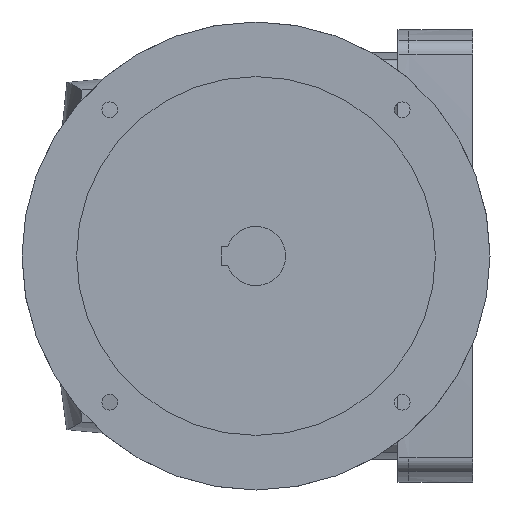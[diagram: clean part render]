
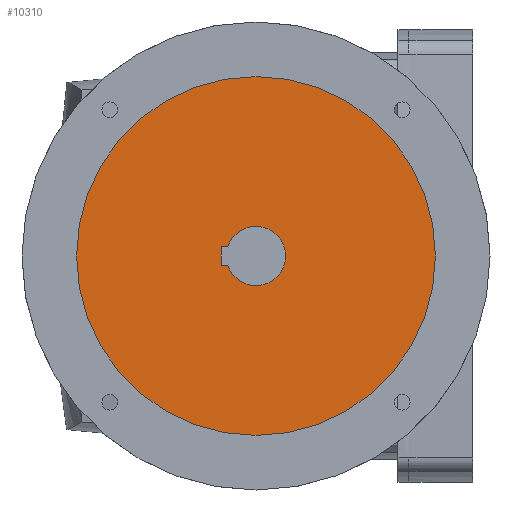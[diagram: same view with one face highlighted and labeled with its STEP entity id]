
A CAD part, left-side view. The second image highlights one B-rep face of the part: STEP entity #10310.
In plain terms, the highlighted planar face has unit normal (-1, 0, 0).
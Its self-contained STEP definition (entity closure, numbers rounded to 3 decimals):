
#267=CARTESIAN_POINT('',(-176.,124.,0.));
#268=DIRECTION('',(-1.,0.,0.));
#269=DIRECTION('',(0.,-1.,0.));
#270=AXIS2_PLACEMENT_3D('',#267,#268,#269);
#272=CARTESIAN_POINT('',(-176.,124.,0.));
#273=DIRECTION('',(-1.,0.,0.));
#274=DIRECTION('',(0.,1.,0.));
#275=AXIS2_PLACEMENT_3D('',#272,#273,#274);
#277=DIRECTION('',(0.,1.,0.));
#278=VECTOR('',#277,4.272);
#279=CARTESIAN_POINT('',(-176.,142.028,6.));
#280=LINE('',#279,#278);
#281=DIRECTION('',(0.,0.,-1.));
#282=VECTOR('',#281,12.);
#283=CARTESIAN_POINT('',(-176.,146.3,6.));
#284=LINE('',#283,#282);
#285=DIRECTION('',(0.,-1.,0.));
#286=VECTOR('',#285,4.272);
#287=CARTESIAN_POINT('',(-176.,146.3,-6.));
#288=LINE('',#287,#286);
#289=CARTESIAN_POINT('',(-176.,124.,0.));
#290=DIRECTION('',(-1.,0.,0.));
#291=DIRECTION('',(0.,0.949,-0.316));
#292=AXIS2_PLACEMENT_3D('',#289,#290,#291);
#9893=CARTESIAN_POINT('',(-176.,9.,0.));
#9894=CARTESIAN_POINT('',(-176.,239.,0.));
#9895=VERTEX_POINT('',#9893);
#9896=VERTEX_POINT('',#9894);
#9905=CARTESIAN_POINT('',(-176.,142.028,6.));
#9906=CARTESIAN_POINT('',(-176.,146.3,6.));
#9907=VERTEX_POINT('',#9905);
#9908=VERTEX_POINT('',#9906);
#9909=CARTESIAN_POINT('',(-176.,146.3,-6.));
#9910=VERTEX_POINT('',#9909);
#9911=CARTESIAN_POINT('',(-176.,142.028,-6.));
#9912=VERTEX_POINT('',#9911);
#10291=CARTESIAN_POINT('',(-176.,0.,0.));
#10292=DIRECTION('',(-1.,0.,0.));
#10293=DIRECTION('',(0.,-1.,0.));
#10294=AXIS2_PLACEMENT_3D('',#10291,#10292,#10293);
#10295=PLANE('',#10294);
#10296=ORIENTED_EDGE('',*,*,#10284,.F.);
#10297=ORIENTED_EDGE('',*,*,#10270,.F.);
#10298=EDGE_LOOP('',(#10296,#10297));
#10299=FACE_OUTER_BOUND('',#10298,.F.);
#10301=ORIENTED_EDGE('',*,*,#10300,.T.);
#10303=ORIENTED_EDGE('',*,*,#10302,.T.);
#10305=ORIENTED_EDGE('',*,*,#10304,.T.);
#10307=ORIENTED_EDGE('',*,*,#10306,.T.);
#10308=EDGE_LOOP('',(#10301,#10303,#10305,#10307));
#10309=FACE_BOUND('',#10308,.F.);
#10310=ADVANCED_FACE('',(#10299,#10309),#10295,.T.);
#271=CIRCLE('',#270,115.);
#276=CIRCLE('',#275,115.);
#293=CIRCLE('',#292,19.);
#10270=EDGE_CURVE('',#9896,#9895,#276,.T.);
#10284=EDGE_CURVE('',#9895,#9896,#271,.T.);
#10300=EDGE_CURVE('',#9907,#9908,#280,.T.);
#10302=EDGE_CURVE('',#9908,#9910,#284,.T.);
#10304=EDGE_CURVE('',#9910,#9912,#288,.T.);
#10306=EDGE_CURVE('',#9912,#9907,#293,.T.);
